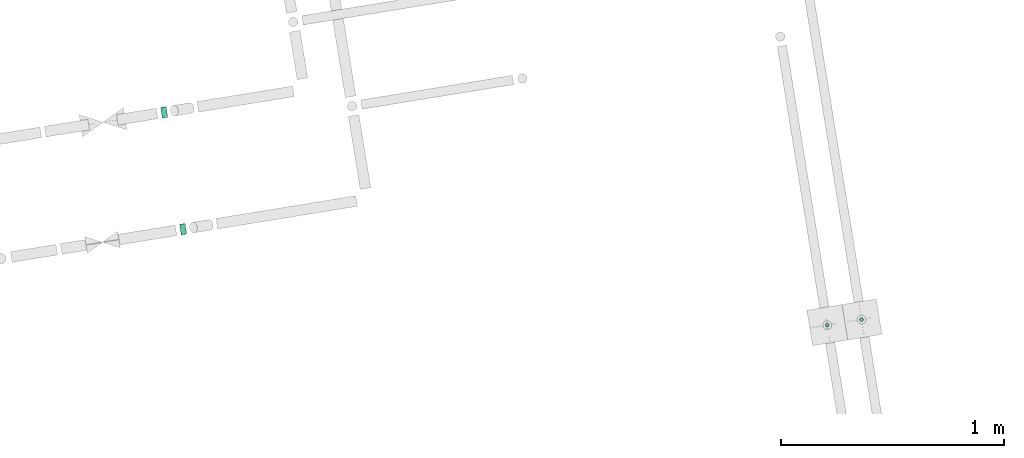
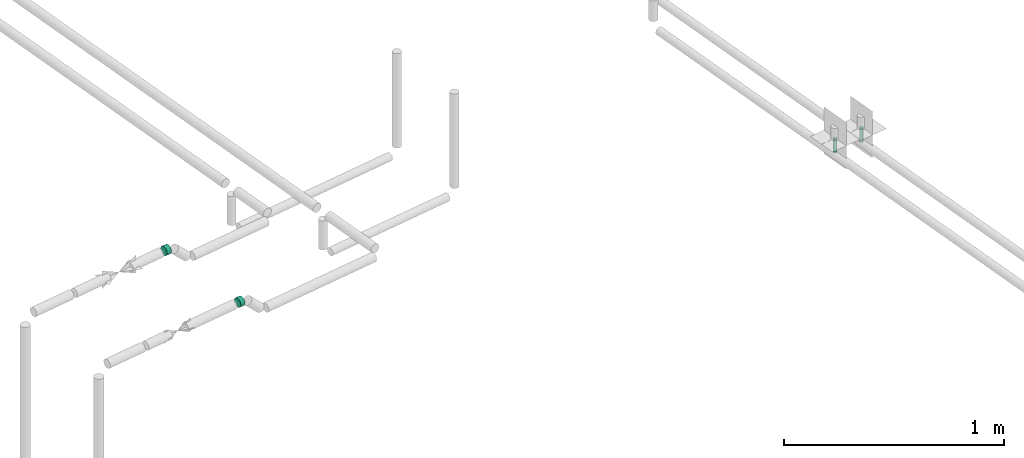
# One storey, part 6 of 10: 4 flow segments.
"""IFC2X3 building model written with IfcOpenShell, lengths in millimetres."""

from ifc_helpers import new_model, entity, si_unit, converted_unit, derived_unit, direction, frame, frame_2d, origin, origin_with_axes, origin_2d_with_axis, place, context, subcontext, project, spatial, circle, extrude, type_object, element, save


model = new_model("IFC2X3")

# Units and contexts
plan_context = context("Plan", 3, precision=1e-05, world=origin_with_axes())
model_context = context("Model", 3, precision=0.01, world=origin(), true_north=direction((6.12323399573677e-17, 1.0)))
body_context = subcontext(model_context, "Body", "Model", "MODEL_VIEW")
ifc_project = project(units=[converted_unit("PLANEANGLEUNIT", "DEGREE", entity("IfcPositiveLengthMeasure", 0.0174532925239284), si_unit("PLANEANGLEUNIT", "RADIAN"), dimensions=[0, 0, 0, 0, 0, 0, 0]), si_unit("AREAUNIT", "SQUARE_METRE"), si_unit("LENGTHUNIT", "METRE", prefix="MILLI"), si_unit("MASSUNIT", "GRAM", prefix="KILO"), si_unit("POWERUNIT", "WATT"), si_unit("PRESSUREUNIT", "PASCAL", prefix="KILO"), si_unit("FORCEUNIT", "NEWTON", prefix="KILO"), si_unit("ELECTRICVOLTAGEUNIT", "VOLT"), si_unit("ELECTRICCURRENTUNIT", "AMPERE"), si_unit("THERMODYNAMICTEMPERATUREUNIT", "DEGREE_CELSIUS"), si_unit("TIMEUNIT", "SECOND"), si_unit("VOLUMEUNIT", "CUBIC_METRE"), derived_unit("LINEARVELOCITYUNIT", [(si_unit("LENGTHUNIT", "METRE"), 1), (si_unit("TIMEUNIT", "SECOND"), -1)]), derived_unit("VOLUMETRICFLOWRATEUNIT", [(si_unit("VOLUMEUNIT", "CUBIC_METRE"), 1), (si_unit("TIMEUNIT", "SECOND"), -1)]), derived_unit("THERMALTRANSMITTANCEUNIT", [(si_unit("POWERUNIT", "WATT"), 1), (si_unit("THERMODYNAMICTEMPERATUREUNIT", "KELVIN"), -1), (si_unit("AREAUNIT", "SQUARE_METRE"), -1)]), derived_unit("SOUNDPRESSUREUNIT", [(si_unit("PRESSUREUNIT", "PASCAL"), 1)])], contexts=[model_context, plan_context])

# Site, building, storey
site_placement = place(None, frame((-0.00071070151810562, 0.00438415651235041, 0.0), z_axis=(0.0, 0.0, 1.0), x_axis=(-0.160236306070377, 0.987078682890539, 0.0)))
site = spatial("IfcSite", under=ifc_project, at=site_placement, Name="Default", CompositionType="ELEMENT")
building_placement = place(site_placement, origin_with_axes())
building = spatial("IfcBuilding", under=site, at=building_placement, CompositionType="ELEMENT")
storey_placement = place(building_placement, frame((0.0, 0.0, 58999.9999999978), z_axis=(0.0, 0.0, 1.0), x_axis=(1.0, 0.0, 0.0)))
storey = spatial("IfcBuildingStorey", under=building, at=storey_placement, Name="Nivå F", CompositionType="ELEMENT", Elevation=58999.9999999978)

# Flow segments
pipe_segment_type_1 = type_object("IfcPipeSegmentType", Name="Pipe Types:Stålrør syrefast AISI 316", PredefinedType="NOTDEFINED")
flow_segment_1_placement = place(storey_placement, origin_with_axes())
element("IfcFlowSegment", 1, at=flow_segment_1_placement, inside=storey, type_object=pipe_segment_type_1, Name="Pipe Types:Stålrør syrefast AISI 316", ObjectType="Pipe Types:Stålrør syrefast AISI 316", context=body_context, shape_type="SweptSolid", body=[
    extrude(circle(Radius=24.1499996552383, at=origin_2d_with_axis()), frame((771916.919644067, -502161.918873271, 2880.0), z_axis=(0.0, 1.0, 0.0), x_axis=(-1.0, 0.0, 0.0)), (0.0, 0.0, 1.0), 24.952063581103),
])
flow_segment_2_placement = place(storey_placement, origin_with_axes())
element("IfcFlowSegment", 2, at=flow_segment_2_placement, inside=storey, type_object=pipe_segment_type_1, Name="Pipe Types:Stålrør syrefast AISI 316", ObjectType="Pipe Types:Stålrør syrefast AISI 316", context=body_context, shape_type="SweptSolid", body=[
    extrude(circle(Radius=24.1499996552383, at=origin_2d_with_axis()), frame((771386.919644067, -502161.918873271, 2880.0), z_axis=(0.0, 1.0, 0.0), x_axis=(-1.0, 0.0, 0.0)), (0.0, 0.0, 1.0), 24.952063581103),
])
pipe_segment_type_2 = type_object("IfcPipeSegmentType", Name="Pipe Types:Stålrør normaltykke", PredefinedType="NOTDEFINED")
flow_segment_3_placement = place(storey_placement, origin_with_axes())
element("IfcFlowSegment", 3, at=flow_segment_3_placement, inside=storey, type_object=pipe_segment_type_2, Name="Pipe Types:Stålrør normaltykke", ObjectType="Pipe Types:Stålrør normaltykke", context=body_context, shape_type="SweptSolid", body=[
    extrude(circle(Radius=8.60000039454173, at=frame_2d((0.0, 6.93034962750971e-11), x_axis=(1.0, 0.0))), frame((770500.776748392, -504927.02828872, 2961.00964185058)), (0.0, 0.0, 1.0), 79.9999999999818),
])
flow_segment_4_placement = place(storey_placement, origin_with_axes())
element("IfcFlowSegment", 4, at=flow_segment_4_placement, inside=storey, type_object=pipe_segment_type_2, Name="Pipe Types:Stålrør normaltykke", ObjectType="Pipe Types:Stålrør normaltykke", context=body_context, shape_type="SweptSolid", body=[
    extrude(circle(Radius=8.60000039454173, at=origin_2d_with_axis()), frame((770500.776748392, -505082.544854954, 2952.83070367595)), (0.0, 0.0, 1.0), 79.9999999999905),
])

save(model, "model.ifc")
